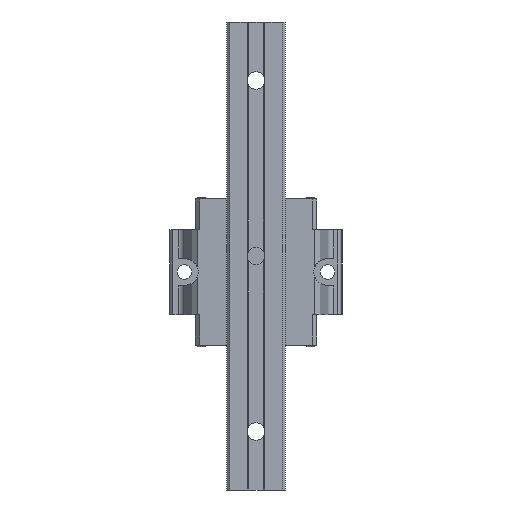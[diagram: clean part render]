
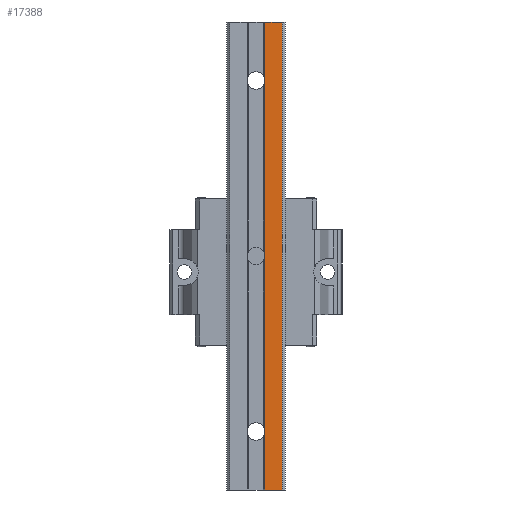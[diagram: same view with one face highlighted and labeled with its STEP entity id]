
A CAD part, front view. The second image highlights one B-rep face of the part: STEP entity #17388.
In plain terms, the highlighted planar face has unit normal (0, -1, 0).
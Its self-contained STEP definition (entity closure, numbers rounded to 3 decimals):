
#16163=DIRECTION('',(1.,0.,0.));
#16164=VECTOR('',#16163,6.);
#16165=CARTESIAN_POINT('',(3.,-15.5,-60.));
#16166=LINE('',#16165,#16164);
#16383=DIRECTION('',(0.,0.,1.));
#16384=VECTOR('',#16383,160.);
#16385=CARTESIAN_POINT('',(9.,-15.5,-60.));
#16386=LINE('',#16385,#16384);
#16387=DIRECTION('',(0.,0.,1.));
#16388=VECTOR('',#16387,20.);
#16389=CARTESIAN_POINT('',(3.,-15.5,
80.));
#16390=LINE('',#16389,#16388);
#16391=DIRECTION('',(1.,0.,0.));
#16392=VECTOR('',#16391,6.);
#16393=CARTESIAN_POINT('',(3.,-15.5,100.));
#16394=LINE('',#16393,#16392);
#16395=DIRECTION('',(0.,0.,1.));
#16396=VECTOR('',#16395,20.);
#16397=CARTESIAN_POINT('',(3.,-15.5,-60.));
#16398=LINE('',#16397,#16396);
#16399=DIRECTION('',(0.,0.,1.));
#16400=VECTOR('',#16399,60.);
#16401=CARTESIAN_POINT('',(3.,-15.5,
-40.));
#16402=LINE('',#16401,#16400);
#16403=DIRECTION('',(0.,0.,1.));
#16404=VECTOR('',#16403,60.);
#16405=CARTESIAN_POINT('',(3.,-15.5,
20.));
#16406=LINE('',#16405,#16404);
#16875=CARTESIAN_POINT('',(3.,-15.5,-60.));
#16876=VERTEX_POINT('',#16875);
#16877=CARTESIAN_POINT('',(9.,-15.5,-60.));
#16878=VERTEX_POINT('',#16877);
#16921=CARTESIAN_POINT('',(9.,-15.5,100.));
#16922=VERTEX_POINT('',#16921);
#16923=CARTESIAN_POINT('',(3.,-15.5,100.));
#16924=VERTEX_POINT('',#16923);
#16961=CARTESIAN_POINT('',(3.,-15.5,
80.));
#16962=VERTEX_POINT('',#16961);
#16963=CARTESIAN_POINT('',(3.,-15.5,
-40.));
#16964=VERTEX_POINT('',#16963);
#16965=CARTESIAN_POINT('',(3.,-15.5,
20.));
#16966=VERTEX_POINT('',#16965);
#17370=CARTESIAN_POINT('',(3.,-15.5,-30.));
#17371=DIRECTION('',(0.,-1.,0.));
#17372=DIRECTION('',(1.,0.,0.));
#17373=AXIS2_PLACEMENT_3D('',#17370,#17371,#17372);
#17374=PLANE('',#17373);
#17376=ORIENTED_EDGE('',*,*,#17375,.T.);
#17377=ORIENTED_EDGE('',*,*,#17183,.T.);
#17378=ORIENTED_EDGE('',*,*,#17363,.F.);
#17379=ORIENTED_EDGE('',*,*,#17112,.F.);
#17381=ORIENTED_EDGE('',*,*,#17380,.T.);
#17383=ORIENTED_EDGE('',*,*,#17382,.T.);
#17385=ORIENTED_EDGE('',*,*,#17384,.T.);
#17386=EDGE_LOOP('',(#17376,#17377,#17378,#17379,#17381,#17383,#17385));
#17387=FACE_OUTER_BOUND('',#17386,.F.);
#17388=ADVANCED_FACE('',(#17387),#17374,.T.);
#17112=EDGE_CURVE('',#16876,#16878,#16166,.T.);
#17183=EDGE_CURVE('',#16924,#16922,#16394,.T.);
#17363=EDGE_CURVE('',#16878,#16922,#16386,.T.);
#17375=EDGE_CURVE('',#16962,#16924,#16390,.T.);
#17380=EDGE_CURVE('',#16876,#16964,#16398,.T.);
#17382=EDGE_CURVE('',#16964,#16966,#16402,.T.);
#17384=EDGE_CURVE('',#16966,#16962,#16406,.T.);
